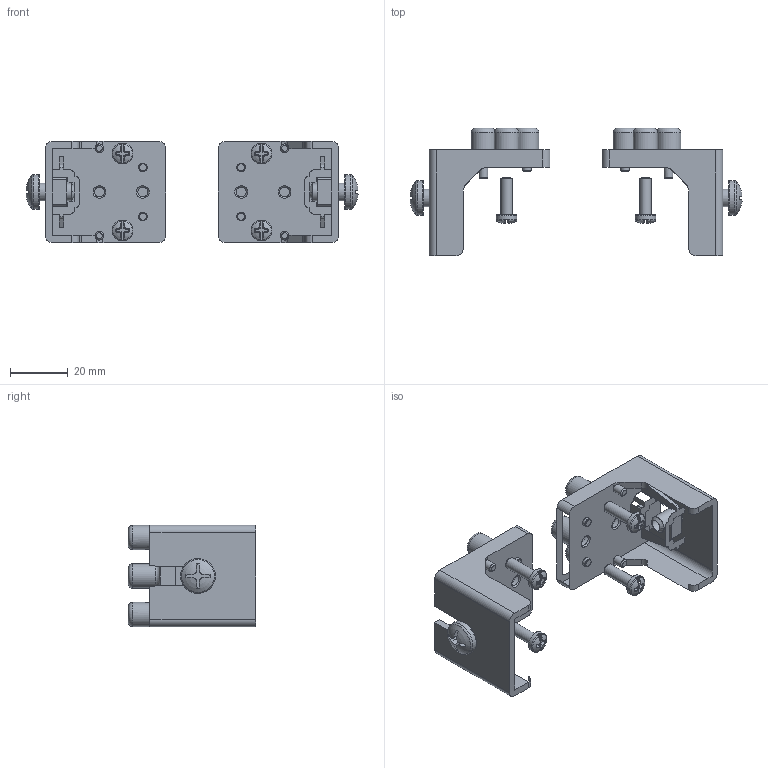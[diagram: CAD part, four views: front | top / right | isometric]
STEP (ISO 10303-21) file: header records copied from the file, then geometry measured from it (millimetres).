
FILE_DESCRIPTION(/* description */ (''),/* implementation_level */ '2;1');
FILE_NAME(/* name */ '4005155.stp',/* time_stamp */ '2016-09-26T10:55:23+02:00',/* author */ (''),/* organization */ (''),/* preprocessor_version */ 'ST-DEVELOPER v16',/* originating_system */ 'SIEMENS PLM Software NX 11.0',/* authorisation */ '');
FILE_SCHEMA (('AUTOMOTIVE_DESIGN { 1 0 10303 214 3 1 1 1 }'));
Length unit declared in the file: millimetre
Products named in the file (1): 4005155_LINKEDEXT_jt
Bounding box: 114.73 x 44.1 x 35 mm (x, y, z)
Surface area: 15573 mm2 (no closed solid volume)
Topology: 0 solids, 20 shells, 348 faces, 1306 edges, 930 vertices
Faces by surface type: plane 126, cylinder 92, torus 76, sphere 26, cone 20, bspline 8
Full cylindrical faces by diameter (mm): 3 x8, 4 x4, 6 x2, 7.2 x4, 8.4 x8, 12 x2
Entity records: 15624 total; most frequent: CARTESIAN_POINT 3783, DIRECTION 2292, ORIENTED_EDGE 1696, EDGE_CURVE 1188, VERTEX_POINT 892, AXIS2_PLACEMENT_3D 881, LINE 530, VECTOR 530
